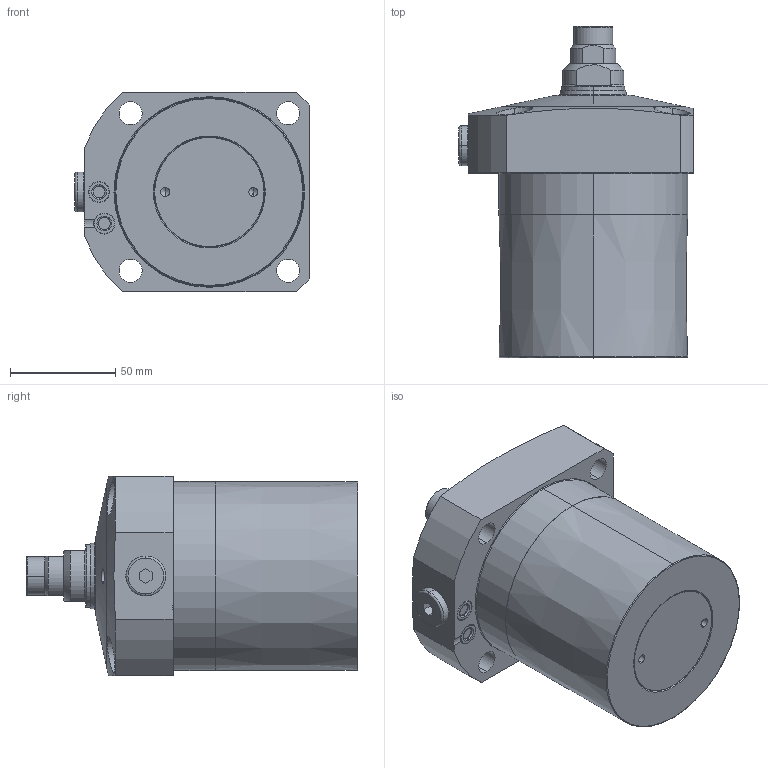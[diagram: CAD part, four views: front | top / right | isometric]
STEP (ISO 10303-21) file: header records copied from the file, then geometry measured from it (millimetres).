
FILE_DESCRIPTION(/* description */ (''),/* implementation_level */ '2;1');
FILE_NAME(/* name */ 'KFSC90-M.stp',/* time_stamp */ '2026-02-04T16:24:20+08:00',/* author */ (''),/* organization */ (''),/* preprocessor_version */ 'ST-DEVELOPER v16.7',/* originating_system */ 'SIEMENS PLM Software NX 12.0',/* authorisation */ '');
FILE_SCHEMA (('AUTOMOTIVE_DESIGN { 1 0 10303 214 3 1 1 1 }'));
Length unit declared in the file: millimetre
Products named in the file (10): XLC-M16SP_pad; XLC-M16SP_pin; XLC-M16_o-ring; XLC-M16SP_contactbolt; KFSC90-M-05; KFSC90-M-04; KFSC90-M-02; KFSC90-M-01; KFSC90-M-03; LC0903-CxM_step
Assembly tree (10 placements, depth 3):
  LC0903-CxM_step
    KFSC90-M-01
    KFSC90-M-03
      XLC-M16SP_contactbolt
      XLC-M16_o-ring
      XLC-M16SP_pin
      XLC-M16SP_pad
    KFSC90-M-02
    KFSC90-M-04
    KFSC90-M-05  x2
Bounding box: 111.5 x 158 x 95 mm (x, y, z)
Volume: 870024.2 mm3; surface area: 74262.4 mm2
Topology: 9 solids, 9 shells, 278 faces, 612 edges, 370 vertices
Faces by surface type: cylinder 92, torus 62, cone 59, plane 59, sphere 6
Entity records: 8230 total; most frequent: CARTESIAN_POINT 1847, DIRECTION 1418, ORIENTED_EDGE 1160, AXIS2_PLACEMENT_3D 613, EDGE_CURVE 580, VERTEX_POINT 356, CIRCLE 336, EDGE_LOOP 312
